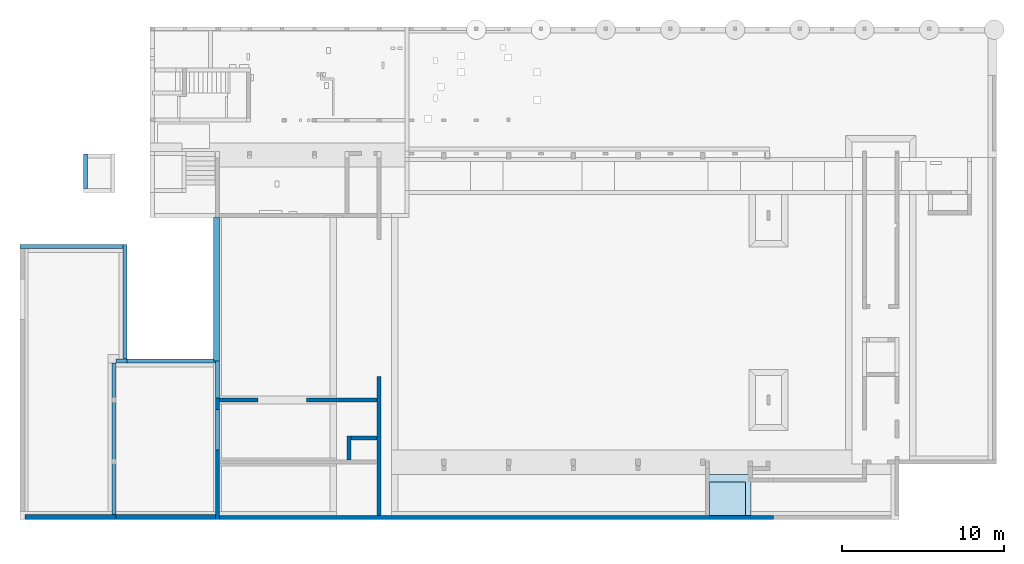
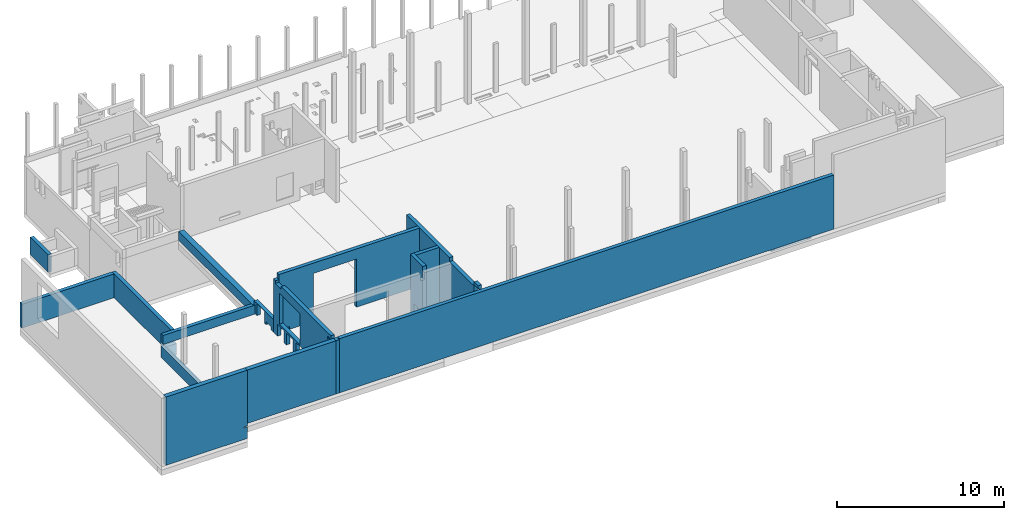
# One storey, part 6 of 12: 16 walls, 1 slab, 29 openings.
"""IFC2X3 building model written with IfcOpenShell, lengths in metres."""

from ifc_helpers import new_model, entity, si_unit, converted_unit, direction, frame, frame_2d, origin, origin_2d_with_axis, place, context, subcontext, project, spatial, polyline, rectangle, circle, outline, extrude, clip, bounded_halfspace, faceted_brep, material, layer, layer_set, layer_usage, type_object, element, save


model = new_model("IFC2X3")

# Units and contexts
model_context = context("Model", 3, precision=1e-05, world=frame((30.086303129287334, 2.687674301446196, 462.0)), true_north=direction((0.19008937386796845, 0.9817667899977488)))
body_context = subcontext(model_context, "Body", "Model", "MODEL_VIEW")
ifc_project = project(units=[si_unit("LENGTHUNIT", "METRE"), si_unit("AREAUNIT", "SQUARE_METRE"), converted_unit("PLANEANGLEUNIT", "DEGREE", entity("IfcPlaneAngleMeasure", 0.017453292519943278), si_unit("PLANEANGLEUNIT", "RADIAN"), dimensions=[0, 0, 0, 0, 0, 0, 0]), si_unit("VOLUMEUNIT", "CUBIC_METRE")], contexts=[model_context])

# Site, building, storey
site_placement = place(None, origin())
site = spatial("IfcSite", under=ifc_project, at=site_placement, Name="Default", CompositionType="ELEMENT")
building_placement = place(site_placement, origin())
building = spatial("IfcBuilding", under=site, at=building_placement, CompositionType="ELEMENT")
storey_placement = place(building_placement, frame((0.0, 0.0, -3.800000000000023)))
storey = spatial("IfcBuildingStorey", under=building, at=storey_placement, Name="FB_U01_OKFB", CompositionType="ELEMENT", Elevation=-3.800000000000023)

# Slab
ifc_material_1 = material(Name="WS_CONCRETE_REINFORCED_WATERTIGHT")
slab_type = type_object("IfcSlabType", Name="Geschossdecke:WS_SLB_CON_270_WT", PredefinedType="FLOOR")
slab_placement = place(storey_placement, origin())
element("IfcSlab", 1, at=slab_placement, inside=storey, type_object=slab_type, material=ifc_material_1, Name="Geschossdecke:WS_SLB_CON_270_WT", ObjectType="Geschossdecke:WS_SLB_CON_270_WT", PredefinedType="FLOOR", context=body_context, shape_type="Brep", body=[
    faceted_brep([(83.09036056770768, -21.13462625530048, 3.330000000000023), (83.09036056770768, -23.41465501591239, 3.330000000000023), (83.09036056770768, -23.664655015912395, 3.330000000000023), (80.28533724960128, -23.664655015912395, 3.330000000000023), (80.28533724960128, -23.414655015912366, 3.330000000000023), (80.28533724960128, -21.13462625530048, 3.330000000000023), (80.53533724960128, -23.664655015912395, 3.600000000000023), (80.71533724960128, -23.664655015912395, 3.600000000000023), (82.74036056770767, -23.664655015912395, 3.600000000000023), (82.74036056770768, -21.614656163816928, 3.600000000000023), (80.53533724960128, -21.614656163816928, 3.600000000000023), (80.53533724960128, -23.414655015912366, 3.600000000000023), (83.09036056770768, -21.13462625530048, 3.4300000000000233), (83.09036056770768, -23.414655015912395, 3.4300000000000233), (83.09036056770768, -23.664655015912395, 3.4300000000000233), (82.74036056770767, -23.664655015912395, 3.4300000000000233), (80.53533724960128, -23.664655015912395, 3.4300000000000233), (80.28533724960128, -23.664655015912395, 3.4300000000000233), (80.28533724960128, -23.414655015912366, 3.4300000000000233), (80.28533724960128, -21.13462625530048, 3.4300000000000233), (82.74036056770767, -21.614656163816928, 3.4300000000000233), (80.53533724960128, -21.614656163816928, 3.4300000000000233)], [[[0, 1, 2, 3, 4, 5]], [[6, 7, 8, 9, 10, 11]], [[2, 1, 0, 12, 13, 14]], [[3, 2, 14, 15, 8, 7, 6, 16, 17]], [[5, 4, 3, 17, 18, 19]], [[0, 5, 19, 12]], [[20, 15, 14, 13, 12, 19, 18, 17, 16, 21]], [[15, 20, 9, 8]], [[20, 21, 10, 9]], [[21, 16, 6, 11, 10]]]),
])

# Walls
ifc_layer_1 = layer(ifc_material_1, 0.24999999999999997)
ifc_layer_set_1 = layer_set([ifc_layer_1], Name="Basiswand:WS_WAL_CON_250_WT")
ifc_layer_usage_1 = layer_usage(ifc_layer_set_1, "AXIS2", "POSITIVE", -0.12499999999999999)
wall_type_1 = type_object("IfcWallType", Name="Basiswand:WS_WAL_CON_250_WT", PredefinedType="STANDARD", material=ifc_layer_set_1)
wall_1_placement = place(storey_placement, frame((43.72630525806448, -23.614655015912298, 2.580000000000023), z_axis=(0.0, 0.0, 1.0), x_axis=(0.0, 1.0, 0.0)))
element("IfcWallStandardCase", 2, at=wall_1_placement, inside=storey, type_object=wall_type_1, material=ifc_layer_usage_1, Name="Basiswand:WS_WAL_CON_250_WT", ObjectType="Basiswand:WS_WAL_CON_250_WT", context=body_context, shape_type="SweptSolid", body=[
    extrude(rectangle(XDim=9.630006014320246, YDim=0.24999999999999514, at=frame_2d((4.815003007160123, -4.163336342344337e-17), x_axis=(-1.0, 0.0))), origin(), (0.0, 0.0, 1.0), 0.8499999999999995),
])
ifc_layer_usage_2 = layer_usage(ifc_layer_set_1, "AXIS2", "POSITIVE", -0.12499999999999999)
wall_2_placement = place(storey_placement, frame((43.85130525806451, -14.10964900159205, 2.580000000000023)))
element("IfcWallStandardCase", 3, at=wall_2_placement, inside=storey, type_object=wall_type_1, material=ifc_layer_usage_2, Name="Basiswand:WS_WAL_CON_250_WT", ObjectType="Basiswand:WS_WAL_CON_250_WT", context=body_context, shape_type="SweptSolid", body=[
    extrude(rectangle(XDim=0.6790316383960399, YDim=0.24999999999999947, at=frame_2d((0.33951581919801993, -6.938893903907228e-17), x_axis=(-1.0, 0.0))), origin(), (0.0, 0.0, 1.0), 0.8499999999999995),
])
ifc_layer_usage_3 = layer_usage(ifc_layer_set_1, "AXIS2", "POSITIVE", -0.12499999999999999)
wall_3_placement = place(storey_placement, frame((44.40533689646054, -13.984649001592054, 2.580000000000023), z_axis=(0.0, 0.0, 1.0), x_axis=(0.0, 1.0, 0.0)))
element("IfcWallStandardCase", 4, at=wall_3_placement, inside=storey, type_object=wall_type_1, material=ifc_layer_usage_3, Name="Basiswand:WS_WAL_CON_250_WT", ObjectType="Basiswand:WS_WAL_CON_250_WT", context=body_context, shape_type="SweptSolid", body=[
    extrude(rectangle(XDim=7.059995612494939, YDim=0.24999999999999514, at=frame_2d((3.5299978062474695, -6.938893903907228e-18), x_axis=(-1.0, 0.0))), origin(), (0.0, 0.0, 1.0), 1.7499999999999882),
])
ifc_layer_usage_4 = layer_usage(ifc_layer_set_1, "AXIS2", "POSITIVE", -0.12499999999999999)
wall_4_placement = place(storey_placement, frame((44.28033689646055, -7.049653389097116, 2.580000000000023), z_axis=(0.0, 0.0, 1.0), x_axis=(-1.0, 0.0, 0.0)))
element("IfcWallStandardCase", 5, at=wall_4_placement, inside=storey, type_object=wall_type_1, material=ifc_layer_usage_4, Name="Basiswand:WS_WAL_CON_250_WT", ObjectType="Basiswand:WS_WAL_CON_250_WT", context=body_context, shape_type="SweptSolid", body=[
    extrude(rectangle(XDim=6.37499897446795, YDim=0.2499999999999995, at=frame_2d((3.187499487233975, -5.551115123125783e-17), x_axis=(-1.0, 0.0))), origin(), (0.0, 0.0, 1.0), 1.7499999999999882),
])
ifc_layer_usage_5 = layer_usage(ifc_layer_set_1, "AXIS2", "NEGATIVE", 0.12499999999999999)
wall_5_placement = place(storey_placement, frame((43.60130499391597, -14.10964900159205, 3.6800000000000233)))
element("IfcWallStandardCase", 6, at=wall_5_placement, inside=storey, type_object=wall_type_1, material=ifc_layer_usage_5, Name="Basiswand:WS_WAL_CON_250_WT", ObjectType="Basiswand:WS_WAL_CON_250_WT", context=body_context, shape_type="SweptSolid", body=[
    extrude(outline(polyline([(-0.12500000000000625, -2.1680108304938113), (0.0, -2.1680108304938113), (0.0, -2.043010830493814), (0.12499999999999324, -2.0430108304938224), (0.1250000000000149, 4.211021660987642), (-0.12499999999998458, 4.211021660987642), (-0.12500000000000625, -2.1680108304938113)])), frame((4.2110216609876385, 0.0, 0.0), z_axis=(0.0, 0.0, 1.0), x_axis=(0.0, 1.0, 0.0)), (0.0, 0.0, 1.0), 0.6499999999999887),
])

# Wall, opening
ifc_layer_usage_6 = layer_usage(ifc_layer_set_1, "AXIS2", "POSITIVE", -0.12499999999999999)
wall_6_placement = place(storey_placement, frame((50.23033735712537, -23.78965501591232, 3.6800000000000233)))
wall_6 = element("IfcWallStandardCase", 7, at=wall_6_placement, inside=storey, type_object=wall_type_1, material=ifc_layer_usage_6, Name="Basiswand:WS_WAL_CON_250_WT", ObjectType="Basiswand:WS_WAL_CON_250_WT", context=body_context, shape_type="SweptSolid", body=[
    extrude(rectangle(XDim=34.250001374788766, YDim=0.25000000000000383, at=frame_2d((17.125000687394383, 1.0269562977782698e-15), x_axis=(-1.0, 0.0))), origin(), (0.0, 0.0, 1.0), 3.969999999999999),
])
opening_1_placement = place(wall_6_placement, origin())
element("IfcOpeningElement", 8, at=opening_1_placement, cuts=wall_6, Name="Basiswand:WS_WAL_CON_250_WT", ObjectType="Opening", context=body_context, shape_type="SweptSolid", body=[
    extrude(rectangle(XDim=0.7999999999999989, YDim=0.24999999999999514, at=frame_2d((5.273559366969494e-16, 0.0), x_axis=(1.0, 0.0))), frame((9.875000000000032, 0.12499998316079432, 3.5699999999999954), z_axis=(0.0, 1.0, 0.0), x_axis=(0.0, 0.0, -1.0)), (0.0, 0.0, 1.0), 0.49999999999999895),
])

# Wall, openings
ifc_material_2 = material(Name="WS_CONCRETE_REINFORCED")
ifc_layer_2 = layer(ifc_material_2, 0.24999999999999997)
ifc_layer_set_2 = layer_set([ifc_layer_2], Name="Basiswand:WS_WAL_CON_250")
ifc_layer_usage_7 = layer_usage(ifc_layer_set_2, "AXIS2", "POSITIVE", -0.12499999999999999)
wall_type_2 = type_object("IfcWallType", Name="Basiswand:WS_WAL_CON_250", PredefinedType="STANDARD", material=ifc_layer_set_2)
wall_7_placement = place(storey_placement, frame((60.10533735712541, -23.664655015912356, 3.6800000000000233), z_axis=(0.0, 0.0, 1.0), x_axis=(0.0, 1.0, 0.0)))
wall_7 = element("IfcWallStandardCase", 9, at=wall_7_placement, inside=storey, type_object=wall_type_2, material=ifc_layer_usage_7, Name="Basiswand:WS_WAL_CON_250", ObjectType="Basiswand:WS_WAL_CON_250", context=body_context, shape_type="Clipping", body=[
    clip(clip(extrude(rectangle(XDim=8.595006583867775, YDim=0.24999999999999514, at=frame_2d((4.297503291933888, 0.0), x_axis=(-1.0, 0.0))), origin(), (0.0, 0.0, 1.0), 4.27), bounded_halfspace(frame((3.4300060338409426, -0.12499999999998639, 3.969999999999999), z_axis=(0.0, 0.0, -1.0), x_axis=(1.0, 0.0, 0.0)), True, frame((3.4300060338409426, -0.12499999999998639, 3.969999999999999), z_axis=(0.0, 0.0, -1.0), x_axis=(1.0, 0.0, 0.0)), polyline([(0.0, 0.0), (-0.404910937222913, 0.0), (-2.9300060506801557, 0.0), (-2.930006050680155, -0.24999999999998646), (-0.2500000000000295, -0.24999999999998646), (0.0, -0.24999999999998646), (0.0, 0.0)]))), bounded_halfspace(frame((3.4300060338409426, 0.12500000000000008, 3.969999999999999), z_axis=(1.0, 0.0, 0.0), x_axis=(0.0, 0.0, 1.0)), True, frame((3.4300060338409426, 0.12500000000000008, 3.969999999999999), z_axis=(1.0, 0.0, 0.0), x_axis=(0.0, 0.0, 1.0)), polyline([(0.0, 0.0), (0.09144000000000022, 0.0), (0.09144000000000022, 0.07620000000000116), (0.0, 0.07620000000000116), (0.0, 0.0)]))),
])
opening_2_placement = place(wall_7_placement, origin())
element("IfcOpeningElement", 10, at=opening_2_placement, cuts=wall_7, Name="Basiswand:WS_WAL_CON_250", ObjectType="Opening", context=body_context, shape_type="SweptSolid", body=[
    extrude(rectangle(XDim=0.879999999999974, YDim=0.7000000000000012, at=origin_2d_with_axis()), frame((1.6106630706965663, -0.12499999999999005, 0.43999999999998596), z_axis=(0.0, 1.0, 0.0), x_axis=(0.0, 0.0, -1.0)), (0.0, 0.0, 1.0), 0.24999999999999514),
])
opening_3_placement = place(wall_7_placement, origin())
element("IfcOpeningElement", 11, at=opening_3_placement, cuts=wall_7, Name="Basiswand:WS_WAL_CON_250", ObjectType="Opening", context=body_context, shape_type="SweptSolid", body=[
    extrude(rectangle(XDim=0.8799999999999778, YDim=0.899999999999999, at=frame_2d((8.326672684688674e-17, 0.0), x_axis=(1.0, 0.0))), frame((0.660663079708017, -0.12499999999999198, 0.43999999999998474), z_axis=(0.0, 1.0, 0.0), x_axis=(0.0, 0.0, -1.0)), (0.0, 0.0, 1.0), 0.24999999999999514),
])
opening_4_placement = place(wall_7_placement, origin())
element("IfcOpeningElement", 12, at=opening_4_placement, cuts=wall_7, Name="Basiswand:WS_WAL_CON_250", ObjectType="Opening", context=body_context, shape_type="SweptSolid", body=[
    extrude(rectangle(XDim=0.1499999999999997, YDim=0.4, at=frame_2d((6.938893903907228e-18, -2.1649348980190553e-15), x_axis=(1.0, 0.0))), frame((2.9800060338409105, -0.12499999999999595, 0.07499999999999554), z_axis=(0.0, 1.0, 0.0), x_axis=(0.0, 0.0, -1.0)), (0.0, 0.0, 1.0), 0.24999999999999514),
])
opening_5_placement = place(wall_7_placement, origin())
element("IfcOpeningElement", 13, at=opening_5_placement, cuts=wall_7, Name="Basiswand:WS_WAL_CON_250", ObjectType="Opening", context=body_context, shape_type="SweptSolid", body=[
    extrude(rectangle(XDim=0.7999999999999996, YDim=0.499999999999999, at=frame_2d((-2.7755575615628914e-16, 2.1788126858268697e-15), x_axis=(1.0, 0.0))), frame((0.2499999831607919, -0.1249999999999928, 3.5699999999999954), z_axis=(0.0, 1.0, 0.0), x_axis=(0.0, 0.0, -1.0)), (0.0, 0.0, 1.0), 0.24999999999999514),
])

# Wall, opening
ifc_layer_usage_8 = layer_usage(ifc_layer_set_2, "AXIS2", "POSITIVE", -0.12499999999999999)
wall_8_placement = place(storey_placement, frame((58.24533741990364, -20.234648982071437, 3.6800000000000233), z_axis=(0.0, 0.0, 1.0), x_axis=(0.0, 1.0, 0.0)))
wall_8 = element("IfcWallStandardCase", 14, at=wall_8_placement, inside=storey, type_object=wall_type_2, material=ifc_layer_usage_8, Name="Basiswand:WS_WAL_CON_250", ObjectType="Basiswand:WS_WAL_CON_250", context=body_context, shape_type="SweptSolid", body=[
    extrude(rectangle(XDim=1.4799999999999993, YDim=0.25000000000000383, at=frame_2d((0.7399999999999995, -2.5396351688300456e-15), x_axis=(1.0, 0.0))), origin(), (0.0, 0.0, 1.0), 4.27),
])
opening_6_placement = place(wall_8_placement, origin())
element("IfcOpeningElement", 15, at=opening_6_placement, cuts=wall_8, Name="Basiswand:WS_WAL_CON_250", ObjectType="Opening", context=body_context, shape_type="SweptSolid", body=[
    extrude(rectangle(XDim=0.8999999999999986, YDim=0.8, at=frame_2d((0.0, -4.3298697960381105e-15), x_axis=(1.0, 0.0))), frame((0.6406564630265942, -0.12499999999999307, 0.45000000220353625), z_axis=(0.0, 1.0, 0.0), x_axis=(0.0, 0.0, -1.0)), (0.0, 0.0, 1.0), 0.24999999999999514),
])

# Wall, openings
ifc_layer_usage_9 = layer_usage(ifc_layer_set_2, "AXIS2", "POSITIVE", -0.12499999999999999)
wall_9_placement = place(storey_placement, frame((59.98033735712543, -16.534648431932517, 3.6800000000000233), z_axis=(0.0, 0.0, 1.0), x_axis=(-1.0, 0.0, 0.0)))
wall_9 = element("IfcWallStandardCase", 16, at=wall_9_placement, inside=storey, type_object=wall_type_2, material=ifc_layer_usage_9, Name="Basiswand:WS_WAL_CON_250", ObjectType="Basiswand:WS_WAL_CON_250", context=body_context, shape_type="SweptSolid", body=[
    extrude(rectangle(XDim=9.750000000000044, YDim=0.24999999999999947, at=frame_2d((4.875000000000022, 0.0), x_axis=(1.0, 0.0))), origin(), (0.0, 0.0, 1.0), 4.27),
])
opening_7_placement = place(wall_9_placement, origin())
element("IfcOpeningElement", 17, at=opening_7_placement, cuts=wall_9, Name="Basiswand:WS_WAL_CON_250", ObjectType="Opening", context=body_context, shape_type="SweptSolid", body=[
    extrude(rectangle(XDim=0.1499999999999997, YDim=0.40000000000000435, at=frame_2d((6.938893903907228e-18, 4.3298697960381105e-15), x_axis=(1.0, 0.0))), frame((7.825000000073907, -0.12499999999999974, 0.07499999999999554), z_axis=(0.0, 1.0, 0.0), x_axis=(0.0, 0.0, -1.0)), (0.0, 0.0, 1.0), 0.2499999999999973),
])
opening_8_placement = place(wall_9_placement, origin())
element("IfcOpeningElement", 18, at=opening_8_placement, cuts=wall_9, Name="Basiswand:WS_WAL_CON_250", ObjectType="Opening", context=body_context, shape_type="SweptSolid", body=[
    extrude(rectangle(XDim=0.19999999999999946, YDim=0.6999999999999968, at=origin_2d_with_axis()), frame((9.36999992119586, -0.12499999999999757, 0.09999999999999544), z_axis=(0.0, 1.0, 0.0), x_axis=(0.0, 0.0, -1.0)), (0.0, 0.0, 1.0), 0.24999999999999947),
])
opening_9_placement = place(wall_9_placement, frame((59.98033735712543, -16.534648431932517, -3.6800000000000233), z_axis=(0.0, 0.0, 1.0), x_axis=(-1.0, 0.0, 0.0)))
element("IfcOpeningElement", 19, at=opening_9_placement, cuts=wall_9, Name="Basiswand:WS_WAL_CON_250", ObjectType="Opening", context=body_context, shape_type="SweptSolid", body=[
    extrude(rectangle(XDim=3.5199999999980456, YDim=2.999999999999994, at=frame_2d((8.659739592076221e-15, -1.1102230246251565e-16), x_axis=(0.0, 1.0))), frame((54.10533735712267, -14.8856484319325, 5.439999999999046), z_axis=(0.0, -1.0, 0.0), x_axis=(1.0, 0.0, 0.0)), (0.0, 0.0, 1.0), 3.048),
])

ifc_layer_usage_10 = layer_usage(ifc_layer_set_2, "AXIS2", "POSITIVE", -0.12499999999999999)
wall_10_placement = place(storey_placement, frame((50.10533735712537, -23.91465501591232, 3.6800000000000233), z_axis=(0.0, 0.0, 1.0), x_axis=(0.0, 1.0, 0.0)))
wall_10 = element("IfcWallStandardCase", 20, at=wall_10_placement, inside=storey, type_object=wall_type_2, material=ifc_layer_usage_10, Name="Basiswand:WS_WAL_CON_250", ObjectType="Basiswand:WS_WAL_CON_250", context=body_context, shape_type="SweptSolid", body=[
    extrude(rectangle(XDim=7.505006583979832, YDim=0.24999999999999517, at=frame_2d((3.752503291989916, 1.4502288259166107e-15), x_axis=(-1.0, 0.0))), origin(), (0.0, 0.0, 1.0), 3.9050000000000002),
])
opening_10_placement = place(wall_10_placement, origin())
element("IfcOpeningElement", 21, at=opening_10_placement, cuts=wall_10, Name="Basiswand:WS_WAL_CON_250", ObjectType="Opening", context=body_context, shape_type="SweptSolid", body=[
    extrude(rectangle(XDim=0.8799999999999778, YDim=0.899999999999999, at=frame_2d((8.326672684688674e-17, 0.0), x_axis=(1.0, 0.0))), frame((0.9106630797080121, -0.125000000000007, 0.43999999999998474), z_axis=(0.0, 1.0, 0.0), x_axis=(0.0, 0.0, -1.0)), (0.0, 0.0, 1.0), 0.24999999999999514),
])
opening_11_placement = place(wall_10_placement, origin())
element("IfcOpeningElement", 22, at=opening_11_placement, cuts=wall_10, Name="Basiswand:WS_WAL_CON_250", ObjectType="Opening", context=body_context, shape_type="SweptSolid", body=[
    extrude(rectangle(XDim=0.879999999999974, YDim=0.7000000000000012, at=origin_2d_with_axis()), frame((1.860662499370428, -0.12500000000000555, 0.4399999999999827), z_axis=(0.0, 1.0, 0.0), x_axis=(0.0, 0.0, -1.0)), (0.0, 0.0, 1.0), 0.24999999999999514),
])
opening_12_placement = place(wall_10_placement, origin())
element("IfcOpeningElement", 23, at=opening_12_placement, cuts=wall_10, Name="Basiswand:WS_WAL_CON_250", ObjectType="Opening", context=body_context, shape_type="SweptSolid", body=[
    extrude(rectangle(XDim=0.8799999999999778, YDim=0.899999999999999, at=frame_2d((8.326672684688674e-17, 0.0), x_axis=(1.0, 0.0))), frame((2.8106624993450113, -0.12500000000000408, 0.43999999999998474), z_axis=(0.0, 1.0, 0.0), x_axis=(0.0, 0.0, -1.0)), (0.0, 0.0, 1.0), 0.24999999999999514),
])
opening_13_placement = place(wall_10_placement, origin())
element("IfcOpeningElement", 24, at=opening_13_placement, cuts=wall_10, Name="Basiswand:WS_WAL_CON_250", ObjectType="Opening", context=body_context, shape_type="SweptSolid", body=[
    extrude(rectangle(XDim=0.8799999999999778, YDim=0.899999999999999, at=frame_2d((5.551115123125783e-17, 0.0), x_axis=(1.0, 0.0))), frame((4.320663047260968, -0.12500000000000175, 0.4400000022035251), z_axis=(0.0, 1.0, 0.0), x_axis=(0.0, 0.0, -1.0)), (0.0, 0.0, 1.0), 0.24999999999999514),
])
opening_14_placement = place(wall_10_placement, origin())
element("IfcOpeningElement", 25, at=opening_14_placement, cuts=wall_10, Name="Basiswand:WS_WAL_CON_250", ObjectType="Opening", context=body_context, shape_type="SweptSolid", body=[
    extrude(rectangle(XDim=0.8799999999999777, YDim=0.7999999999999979, at=frame_2d((0.0, -1.0824674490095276e-15), x_axis=(1.0, 0.0))), frame((5.530663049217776, -0.12499999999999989, 0.44000000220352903), z_axis=(0.0, 1.0, 0.0), x_axis=(0.0, 0.0, -1.0)), (0.0, 0.0, 1.0), 0.24999999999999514),
])
opening_15_placement = place(wall_10_placement, origin())
element("IfcOpeningElement", 26, at=opening_15_placement, cuts=wall_10, Name="Basiswand:WS_WAL_CON_250", ObjectType="Opening", context=body_context, shape_type="SweptSolid", body=[
    extrude(rectangle(XDim=0.8799999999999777, YDim=0.7999999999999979, at=frame_2d((0.0, -1.0824674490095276e-15), x_axis=(1.0, 0.0))), frame((6.595663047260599, -0.12499999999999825, 0.4400000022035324), z_axis=(0.0, 1.0, 0.0), x_axis=(0.0, 0.0, -1.0)), (0.0, 0.0, 1.0), 0.24999999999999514),
])
opening_16_placement = place(wall_10_placement, origin())
element("IfcOpeningElement", 27, at=opening_16_placement, cuts=wall_10, Name="Basiswand:WS_WAL_CON_250", ObjectType="Opening", context=body_context, shape_type="SweptSolid", body=[
    extrude(rectangle(XDim=0.8000000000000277, YDim=0.3000000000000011, at=frame_2d((2.7755575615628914e-16, 2.1649348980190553e-15), x_axis=(1.0, 0.0))), frame((0.450000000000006, -0.12499999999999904, 3.504999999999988), z_axis=(0.0, 1.0, 0.0), x_axis=(0.0, 0.0, -1.0)), (0.0, 0.0, 1.0), 0.24999999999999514),
])
opening_17_placement = place(wall_10_placement, origin())
element("IfcOpeningElement", 28, at=opening_17_placement, cuts=wall_10, Name="Basiswand:WS_WAL_CON_250", ObjectType="Opening", context=body_context, shape_type="SweptSolid", body=[
    extrude(rectangle(XDim=0.2, YDim=0.6993435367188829, at=frame_2d((2.706168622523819e-16, 2.1649348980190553e-15), x_axis=(1.0, 0.0))), frame((6.905334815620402, -0.12499999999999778, 3.805), z_axis=(0.0, 1.0, 0.0), x_axis=(0.0, 0.0, -1.0)), (0.0, 0.0, 1.0), 0.24999999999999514),
])
opening_18_placement = place(wall_10_placement, origin())
element("IfcOpeningElement", 29, at=opening_18_placement, cuts=wall_10, Name="Basiswand:WS_WAL_CON_250", ObjectType="Opening", context=body_context, shape_type="SweptSolid", body=[
    extrude(rectangle(XDim=0.199999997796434, YDim=0.6000000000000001, at=frame_2d((-6.938893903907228e-18, 0.0), x_axis=(1.0, 0.0))), frame((8.08066304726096, -0.12500012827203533, 0.10000000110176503), z_axis=(0.0, 1.0, 0.0), x_axis=(0.0, 0.0, -1.0)), (0.0, 0.0, 1.0), 0.24999999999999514),
])
opening_19_placement = place(wall_10_placement, origin())
element("IfcOpeningElement", 30, at=opening_19_placement, cuts=wall_10, Name="Basiswand:WS_WAL_CON_250", ObjectType="Opening", context=body_context, shape_type="SweptSolid", body=[
    extrude(rectangle(XDim=0.8799999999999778, YDim=0.899999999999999, at=frame_2d((5.551115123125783e-17, 1.0824674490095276e-15), x_axis=(1.0, 0.0))), frame((9.030662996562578, -0.12500012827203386, 0.4400000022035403), z_axis=(0.0, 1.0, 0.0), x_axis=(0.0, 0.0, -1.0)), (0.0, 0.0, 1.0), 0.24999999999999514),
])
opening_20_placement = place(wall_10_placement, origin())
element("IfcOpeningElement", 31, at=opening_20_placement, cuts=wall_10, Name="Basiswand:WS_WAL_CON_250", ObjectType="Opening", context=body_context, shape_type="SweptSolid", body=[
    extrude(circle(Radius=0.12999999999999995, at=frame_2d((0.0, -1.7325874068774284e-14), x_axis=(1.0, 0.0))), frame((0.8950000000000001, -0.12500000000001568, 3.5400000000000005), z_axis=(0.0, 1.0, 0.0), x_axis=(1.0, 0.0, 0.0)), (0.0, 0.0, 1.0), 0.24999999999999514),
])
opening_21_placement = place(wall_10_placement, frame((23.91465501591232, 50.10533735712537, -3.6800000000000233), z_axis=(0.0, 0.0, 1.0), x_axis=(0.0, -1.0, 0.0)))
element("IfcOpeningElement", 32, at=opening_21_placement, cuts=wall_10, Name="Basiswand:WS_WAL_CON_250", ObjectType="Opening", context=body_context, shape_type="SweptSolid", body=[
    extrude(rectangle(XDim=2.264999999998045, YDim=2.499999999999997, at=frame_2d((1.1102230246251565e-15, 0.0), x_axis=(0.0, 1.0))), frame((51.75433735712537, -18.38464870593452, 5.832499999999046), z_axis=(-1.0, 0.0, 0.0), x_axis=(0.0, -1.0, 0.0)), (0.0, 0.0, 1.0), 3.048),
])

ifc_layer_usage_11 = layer_usage(ifc_layer_set_2, "AXIS2", "NEGATIVE", 0.12499999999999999)
wall_11_placement = place(storey_placement, frame((50.10533748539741, -16.409648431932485, 3.6800000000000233), z_axis=(0.0, 0.0, 1.0), x_axis=(0.0, 1.0, 0.0)))
wall_11 = element("IfcWallStandardCase", 33, at=wall_11_placement, inside=storey, type_object=wall_type_2, material=ifc_layer_usage_11, Name="Basiswand:WS_WAL_CON_250", ObjectType="Basiswand:WS_WAL_CON_250", context=body_context, shape_type="SweptSolid", body=[
    extrude(rectangle(XDim=2.299999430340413, YDim=0.24999999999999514, at=frame_2d((1.1499997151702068, 2.213507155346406e-15), x_axis=(1.0, 0.0))), origin(), (0.0, 0.0, 1.0), 0.8999999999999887),
])
opening_22_placement = place(wall_11_placement, origin())
element("IfcOpeningElement", 34, at=opening_22_placement, cuts=wall_11, Name="Basiswand:WS_WAL_CON_250", ObjectType="Opening", context=body_context, shape_type="SweptSolid", body=[
    extrude(rectangle(XDim=0.199999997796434, YDim=0.6000000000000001, at=frame_2d((-6.938893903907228e-18, 0.0), x_axis=(1.0, 0.0))), frame((0.5756564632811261, -0.12499999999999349, 0.10000000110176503), z_axis=(0.0, 1.0, 0.0), x_axis=(0.0, 0.0, -1.0)), (0.0, 0.0, 1.0), 0.24999999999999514),
])
opening_23_placement = place(wall_11_placement, origin())
element("IfcOpeningElement", 35, at=opening_23_placement, cuts=wall_11, Name="Basiswand:WS_WAL_CON_250", ObjectType="Opening", context=body_context, shape_type="SweptSolid", body=[
    extrude(rectangle(XDim=0.8799999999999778, YDim=0.899999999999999, at=frame_2d((5.551115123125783e-17, 1.0824674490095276e-15), x_axis=(1.0, 0.0))), frame((1.525656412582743, -0.12499999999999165, 0.4400000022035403), z_axis=(0.0, 1.0, 0.0), x_axis=(0.0, 0.0, -1.0)), (0.0, 0.0, 1.0), 0.24999999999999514),
])
opening_24_placement = place(wall_11_placement, origin())
element("IfcOpeningElement", 36, at=opening_24_placement, cuts=wall_11, Name="Basiswand:WS_WAL_CON_250", ObjectType="Opening", context=body_context, shape_type="SweptSolid", body=[
    extrude(rectangle(XDim=0.8799999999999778, YDim=0.899999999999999, at=frame_2d((8.326672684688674e-17, 0.0), x_axis=(1.0, 0.0))), frame((-6.594343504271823, -0.12499987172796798, 0.43999999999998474), z_axis=(0.0, 1.0, 0.0), x_axis=(0.0, 0.0, -1.0)), (0.0, 0.0, 1.0), 0.24999999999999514),
])
opening_25_placement = place(wall_11_placement, origin())
element("IfcOpeningElement", 37, at=opening_25_placement, cuts=wall_11, Name="Basiswand:WS_WAL_CON_250", ObjectType="Opening", context=body_context, shape_type="SweptSolid", body=[
    extrude(rectangle(XDim=0.879999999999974, YDim=0.7000000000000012, at=origin_2d_with_axis()), frame((-5.644344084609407, -0.12499987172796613, 0.4399999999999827), z_axis=(0.0, 1.0, 0.0), x_axis=(0.0, 0.0, -1.0)), (0.0, 0.0, 1.0), 0.24999999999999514),
])
opening_26_placement = place(wall_11_placement, origin())
element("IfcOpeningElement", 38, at=opening_26_placement, cuts=wall_11, Name="Basiswand:WS_WAL_CON_250", ObjectType="Opening", context=body_context, shape_type="SweptSolid", body=[
    extrude(rectangle(XDim=0.8799999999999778, YDim=0.899999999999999, at=frame_2d((8.326672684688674e-17, 0.0), x_axis=(1.0, 0.0))), frame((-4.694344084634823, -0.1249998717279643, 0.43999999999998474), z_axis=(0.0, 1.0, 0.0), x_axis=(0.0, 0.0, -1.0)), (0.0, 0.0, 1.0), 0.24999999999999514),
])
opening_27_placement = place(wall_11_placement, origin())
element("IfcOpeningElement", 39, at=opening_27_placement, cuts=wall_11, Name="Basiswand:WS_WAL_CON_250", ObjectType="Opening", context=body_context, shape_type="SweptSolid", body=[
    extrude(rectangle(XDim=0.8799999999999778, YDim=0.899999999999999, at=frame_2d((5.551115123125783e-17, 0.0), x_axis=(1.0, 0.0))), frame((-3.184343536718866, -0.12499987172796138, 0.4400000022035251), z_axis=(0.0, 1.0, 0.0), x_axis=(0.0, 0.0, -1.0)), (0.0, 0.0, 1.0), 0.24999999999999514),
])
opening_28_placement = place(wall_11_placement, origin())
element("IfcOpeningElement", 40, at=opening_28_placement, cuts=wall_11, Name="Basiswand:WS_WAL_CON_250", ObjectType="Opening", context=body_context, shape_type="SweptSolid", body=[
    extrude(rectangle(XDim=0.8799999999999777, YDim=0.7999999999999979, at=frame_2d((0.0, -1.0824674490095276e-15), x_axis=(1.0, 0.0))), frame((-1.974343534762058, -0.12499987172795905, 0.44000000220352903), z_axis=(0.0, 1.0, 0.0), x_axis=(0.0, 0.0, -1.0)), (0.0, 0.0, 1.0), 0.24999999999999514),
])
opening_29_placement = place(wall_11_placement, origin())
element("IfcOpeningElement", 41, at=opening_29_placement, cuts=wall_11, Name="Basiswand:WS_WAL_CON_250", ObjectType="Opening", context=body_context, shape_type="SweptSolid", body=[
    extrude(rectangle(XDim=0.8799999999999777, YDim=0.7999999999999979, at=frame_2d((0.0, -1.0824674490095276e-15), x_axis=(1.0, 0.0))), frame((-0.9093435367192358, -0.12499987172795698, 0.4400000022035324), z_axis=(0.0, 1.0, 0.0), x_axis=(0.0, 0.0, -1.0)), (0.0, 0.0, 1.0), 0.24999999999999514),
])

# Walls
ifc_layer_usage_12 = layer_usage(ifc_layer_set_2, "AXIS2", "NEGATIVE", 0.12499999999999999)
wall_12_placement = place(storey_placement, frame((41.96533341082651, -3.4696084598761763, 3.050000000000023), z_axis=(0.0, 0.0, 1.0), x_axis=(0.0, 1.0, 0.0)))
element("IfcWallStandardCase", 42, at=wall_12_placement, inside=storey, type_object=wall_type_2, material=ifc_layer_usage_12, Name="Basiswand:WS_WAL_CON_250", ObjectType="Basiswand:WS_WAL_CON_250", context=body_context, shape_type="Clipping", body=[
    clip(extrude(rectangle(XDim=2.1399606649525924, YDim=0.24999999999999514, at=frame_2d((1.0699803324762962, 0.0), x_axis=(-1.0, 0.0))), origin(), (0.0, 0.0, 1.0), 1.2799999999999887), bounded_halfspace(frame((0.0, -0.12500000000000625, 1.2799999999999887), z_axis=(0.0, 0.0, -1.0), x_axis=(0.0, 1.0, 0.0)), True, frame((0.0, -0.12500000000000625, 1.2799999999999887), z_axis=(0.0, 0.0, -1.0), x_axis=(0.0, 1.0, 0.0)), polyline([(0.0, 0.0), (0.25000000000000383, 0.0), (0.25000000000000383, 1.6399606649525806), (0.25000000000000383, 2.1399606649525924), (0.0, 2.139960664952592), (0.0, 0.0)]))),
])
ifc_layer_usage_13 = layer_usage(ifc_layer_set_2, "AXIS2", "NEGATIVE", 0.12499999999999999)
wall_13_placement = place(storey_placement, frame((59.98033735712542, -18.879648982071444, 3.6800000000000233), z_axis=(0.0, 0.0, 1.0), x_axis=(-1.0, 0.0, 0.0)))
element("IfcWallStandardCase", 43, at=wall_13_placement, inside=storey, type_object=wall_type_2, material=ifc_layer_usage_13, Name="Basiswand:WS_WAL_CON_250", ObjectType="Basiswand:WS_WAL_CON_250", context=body_context, shape_type="SweptSolid", body=[
    extrude(rectangle(XDim=1.6099999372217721, YDim=0.2499999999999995, at=frame_2d((0.8049999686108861, -1.5265566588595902e-16), x_axis=(-1.0, 0.0))), origin(), (0.0, 0.0, 1.0), 4.27),
])
ifc_layer_3 = layer(ifc_material_1, 0.29999999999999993)
ifc_layer_set_3 = layer_set([ifc_layer_3], Name="Basiswand:WS_WAL_CON_300_WT")
ifc_layer_usage_14 = layer_usage(ifc_layer_set_3, "AXIS2", "POSITIVE", -0.14999999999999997)
wall_type_3 = type_object("IfcWallType", Name="Basiswand:WS_WAL_CON_300_WT", PredefinedType="STANDARD", material=ifc_layer_set_3)
wall_14_placement = place(storey_placement, frame((38.20533792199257, -23.76465501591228, 2.580000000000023)))
element("IfcWallStandardCase", 44, at=wall_14_placement, inside=storey, type_object=wall_type_3, material=ifc_layer_usage_14, Name="Basiswand:WS_WAL_CON_300_WT", ObjectType="Basiswand:WS_WAL_CON_300_WT", context=body_context, shape_type="Clipping", body=[
    clip(extrude(rectangle(XDim=5.645967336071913, YDim=0.3000000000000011, at=frame_2d((2.8229836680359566, 4.3021142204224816e-16), x_axis=(-1.0, 0.0))), origin(), (0.0, 0.0, 1.0), 5.004999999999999), bounded_halfspace(frame((5.395967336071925, -0.1499999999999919, 0.85), z_axis=(-1.0, 0.0, 0.0), x_axis=(0.0, 0.0, 1.0)), True, frame((5.395967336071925, -0.1499999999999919, 0.85), z_axis=(-1.0, 0.0, 0.0), x_axis=(0.0, 0.0, 1.0)), polyline([(0.0, 0.0), (0.07619999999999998, 0.0), (0.07619999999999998, 0.0914399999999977), (0.0, 0.0914399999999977), (0.0, 0.0)]))),
])
ifc_layer_usage_15 = layer_usage(ifc_layer_set_3, "AXIS2", "POSITIVE", -0.14999999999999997)
wall_15_placement = place(storey_placement, frame((43.72630525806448, -23.764655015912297, 3.6800000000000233)))
element("IfcWallStandardCase", 45, at=wall_15_placement, inside=storey, type_object=wall_type_3, material=ifc_layer_usage_15, Name="Basiswand:WS_WAL_CON_300_WT", ObjectType="Basiswand:WS_WAL_CON_300_WT", context=body_context, shape_type="SweptSolid", body=[
    extrude(rectangle(XDim=6.2540320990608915, YDim=0.3000000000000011, at=frame_2d((3.1270160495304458, -7.494005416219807e-16), x_axis=(-1.0, 0.0))), origin(), (0.0, 0.0, 1.0), 3.905),
])
ifc_layer_4 = layer(ifc_material_1, 0.37499999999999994)
ifc_layer_set_4 = layer_set([ifc_layer_4], Name="Basiswand:WS_WAL_CON_375_WT")
ifc_layer_usage_16 = layer_usage(ifc_layer_set_4, "AXIS2", "NEGATIVE", 0.18749999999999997)
wall_type_4 = type_object("IfcWallType", Name="Basiswand:WS_WAL_CON_375_WT", PredefinedType="STANDARD", material=ifc_layer_set_4)
wall_16_placement = place(storey_placement, frame((50.04283748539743, -14.109649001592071, 3.6800000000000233), z_axis=(0.0, 0.0, 1.0), x_axis=(0.0, 1.0, 0.0)))
element("IfcWallStandardCase", 46, at=wall_16_placement, inside=storey, type_object=wall_type_4, material=ifc_layer_usage_16, Name="Basiswand:WS_WAL_CON_375_WT", ObjectType="Basiswand:WS_WAL_CON_375_WT", context=body_context, shape_type="SweptSolid", body=[
    extrude(rectangle(XDim=8.850000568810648, YDim=0.37500000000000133, at=frame_2d((4.425000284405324, -1.249000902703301e-16), x_axis=(-1.0, 0.0))), origin(), (0.0, 0.0, 1.0), 0.6499999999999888),
])

save(model, "model.ifc")
